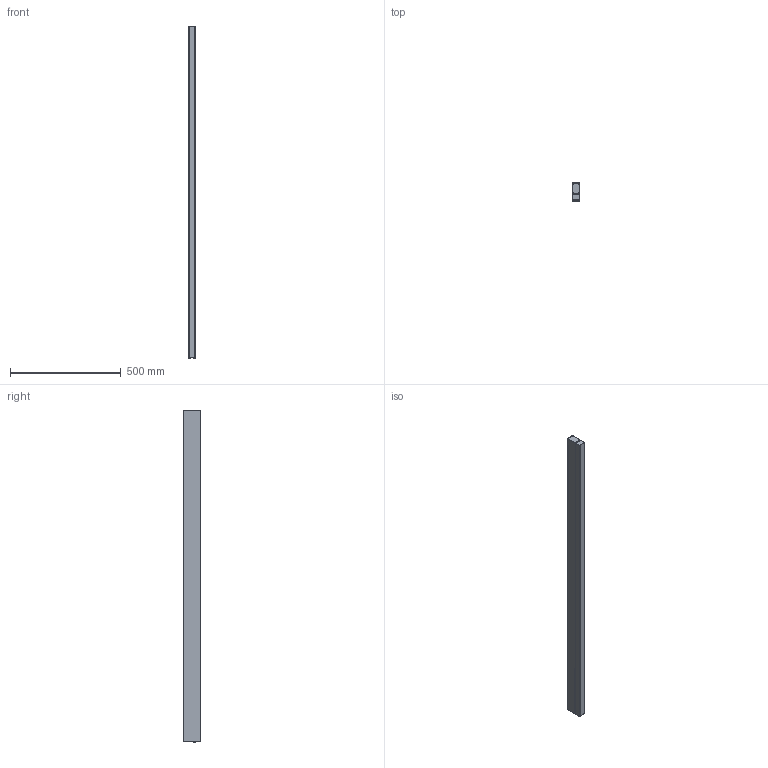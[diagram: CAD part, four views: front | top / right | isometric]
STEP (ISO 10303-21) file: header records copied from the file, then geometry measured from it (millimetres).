
FILE_DESCRIPTION(('STEP AP203'), '1');
FILE_NAME('Ìàòèê Ëîíã 27Âò', '', ('UNSPECIFIED'), ('UNSPECIFIED'), 'ASCON STEP Converter 1.6', 'ASCON Math Kernel', '');
FILE_SCHEMA(('CONFIG_CONTROL_DESIGN'));
Length unit declared in the file: millimetre
Assembly tree (4 placements, depth 2):
  (unnamed)
    (unnamed)  x4
Bounding box: 35 x 80 x 1502.3 mm (x, y, z)
Volume: 608080.9 mm3; surface area: 952905.9 mm2
Topology: 9 solids, 9 shells, 315 faces, 859 edges, 576 vertices
Faces by surface type: plane 158, cylinder 119, bspline 16, cone 12, torus 10
Full cylindrical faces by diameter (mm): 2.9 x4, 6.3 x4, 8 x1, 10 x2, 14 x2
Entity records: 9813 total; most frequent: CARTESIAN_POINT 1503, DIRECTION 1388, ORIENTED_EDGE 1310, EDGE_CURVE 655, AXIS2_PLACEMENT_3D 492, VERTEX_POINT 445, LINE 404, VECTOR 404
